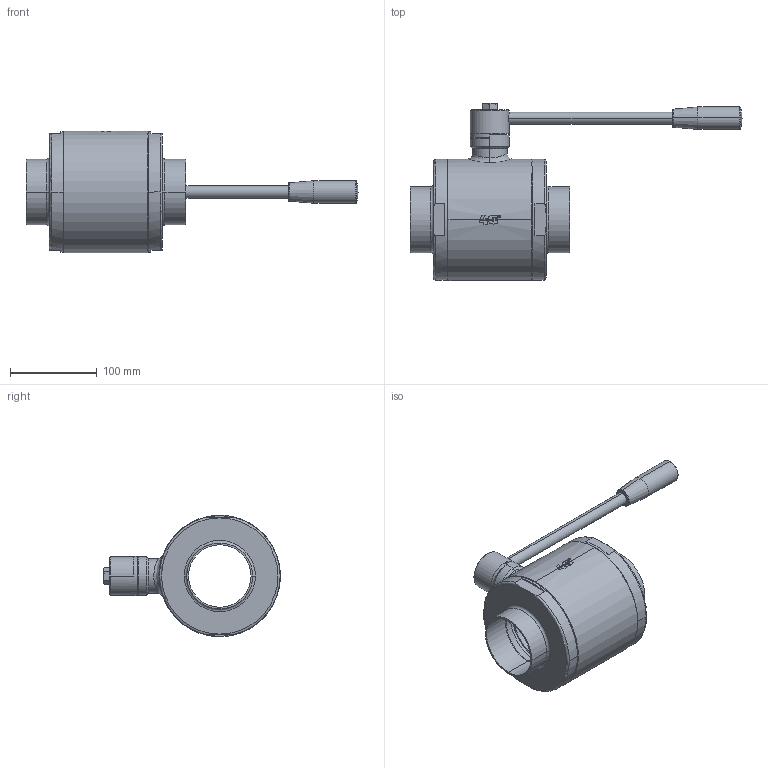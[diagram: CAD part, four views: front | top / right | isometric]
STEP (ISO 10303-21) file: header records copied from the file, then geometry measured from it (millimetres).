
FILE_DESCRIPTION((''),'2;1');
FILE_NAME('1301426U710','2024-03-15T10:58:54',('alfio.taboni'),('CDM Tecnoconsulting'),'CREO PARAMETRIC BY PTC INC, 2023374','CREO PARAMETRIC BY PTC INC, 2023374','');
FILE_SCHEMA(('CONFIG_CONTROL_DESIGN','SHAPE_APPEARANCE_LAYERS_GROUPS'));
Length unit declared in the file: millimetre
Products named in the file (1): 1301426U710
Bounding box: 382.5 x 204 x 140 mm (x, y, z)
Volume: 1506270.7 mm3; surface area: 313105.3 mm2
Topology: 2 solids, 4 shells, 534 faces, 1409 edges, 904 vertices
Faces by surface type: plane 257, cylinder 103, extrusion 56, cone 46, bspline 30, torus 30, sphere 12
Entity records: 29145 total; most frequent: CARTESIAN_POINT 11945, ORIENTED_EDGE 2806, DIRECTION 2390, PRESENTATION_STYLE_ASSIGNMENT 1422, STYLED_ITEM 1405, CURVE_STYLE 1403, EDGE_CURVE 1403, VERTEX_POINT 904
